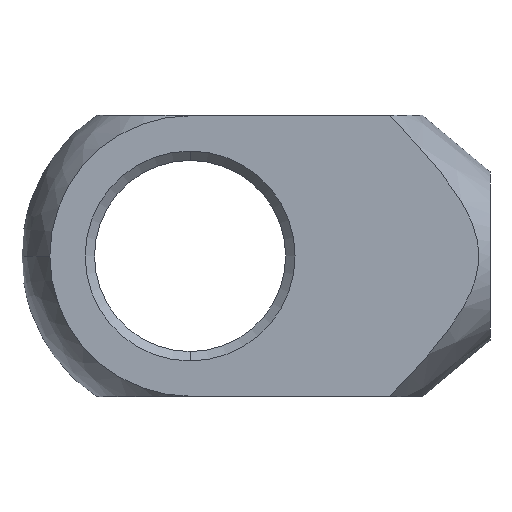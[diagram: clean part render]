
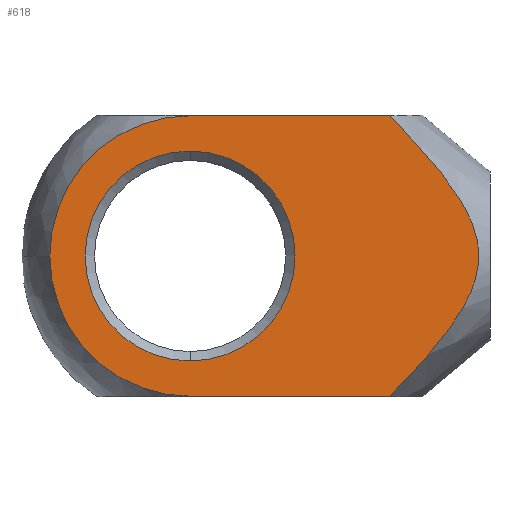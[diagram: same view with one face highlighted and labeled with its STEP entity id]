
A CAD part, left-side view. The second image highlights one B-rep face of the part: STEP entity #618.
In plain terms, the highlighted planar face has unit normal (-1, 0, 0).
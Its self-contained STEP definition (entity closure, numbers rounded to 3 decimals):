
#6 = DIRECTION ( 'NONE',  ( 0., -1., 0. ) ) ;
#45 = CARTESIAN_POINT ( 'NONE',  ( -5., 23.483, 0. ) ) ;
#49 = CARTESIAN_POINT ( 'NONE',  ( -5., 16., -5.6 ) ) ;
#60 = CARTESIAN_POINT ( 'NONE',  ( -5., 4.831, -6.946 ) ) ;
#63 = CARTESIAN_POINT ( 'NONE',  ( -5., 0.596, 0.185 ) ) ;
#64 = CARTESIAN_POINT ( 'NONE',  ( -5., 2.804, -4.71 ) ) ;
#83 = VECTOR ( 'NONE', #746, 1000. ) ;
#128 = CARTESIAN_POINT ( 'NONE',  ( -5., 0.839, 1.486 ) ) ;
#131 = CARTESIAN_POINT ( 'NONE',  ( -5., 1.303, 2.527 ) ) ;
#136 = CARTESIAN_POINT ( 'NONE',  ( -5., 0.987, -1.849 ) ) ;
#146 = PLANE ( 'NONE',  #232 ) ;
#152 = CARTESIAN_POINT ( 'NONE',  ( -5., 0., -7.483 ) ) ;
#156 = VERTEX_POINT ( 'NONE', #45 ) ;
#157 = VERTEX_POINT ( 'NONE', #49 ) ;
#161 = LINE ( 'NONE', #152, #83 ) ;
#197 = CARTESIAN_POINT ( 'NONE',  ( -5., 3.295, -5.283 ) ) ;
#198 = CIRCLE ( 'NONE', #840, 7.483 ) ;
#204 = CARTESIAN_POINT ( 'NONE',  ( -5., 5.363, 7.483 ) ) ;
#207 = CARTESIAN_POINT ( 'NONE',  ( -5., 0.609, 0.376 ) ) ;
#221 = CARTESIAN_POINT ( 'NONE',  ( -5., 0., 7.5 ) ) ;
#232 = AXIS2_PLACEMENT_3D ( 'NONE', #221, #747, #247 ) ;
#234 = ORIENTED_EDGE ( 'NONE', *, *, #465, .F. ) ;
#236 = EDGE_CURVE ( 'NONE', #157, #426, #414, .T. ) ;
#247 = DIRECTION ( 'NONE',  ( 0., 0., -1. ) ) ;
#255 = EDGE_CURVE ( 'NONE', #706, #156, #198, .T. ) ;
#262 = AXIS2_PLACEMENT_3D ( 'NONE', #808, #814, #437 ) ;
#264 = EDGE_CURVE ( 'NONE', #611, #277, #828, .T. ) ;
#269 = CARTESIAN_POINT ( 'NONE',  ( -5., 0.659, 0.753 ) ) ;
#270 = CARTESIAN_POINT ( 'NONE',  ( -5., 1.896, 3.489 ) ) ;
#277 = VERTEX_POINT ( 'NONE', #653 ) ;
#282 = CARTESIAN_POINT ( 'NONE',  ( -5., 1.062, -2.022 ) ) ;
#301 = FACE_OUTER_BOUND ( 'NONE', #874, .T. ) ;
#310 = LINE ( 'NONE', #665, #936 ) ;
#328 = ORIENTED_EDGE ( 'NONE', *, *, #410, .T. ) ;
#352 = EDGE_CURVE ( 'NONE', #277, #706, #161, .T. ) ;
#360 = CARTESIAN_POINT ( 'NONE',  ( -5., 1.306, -2.532 ) ) ;
#368 = CARTESIAN_POINT ( 'NONE',  ( -5., 16., 0. ) ) ;
#390 = CARTESIAN_POINT ( 'NONE',  ( -5., 16., 7.483 ) ) ;
#410 = EDGE_CURVE ( 'NONE', #426, #157, #872, .T. ) ;
#414 = CIRCLE ( 'NONE', #444, 5.6 ) ;
#423 = CARTESIAN_POINT ( 'NONE',  ( -5., 0.696, 0.939 ) ) ;
#426 = VERTEX_POINT ( 'NONE', #435 ) ;
#428 = CARTESIAN_POINT ( 'NONE',  ( -5., 0.65, -0.763 ) ) ;
#430 = CARTESIAN_POINT ( 'NONE',  ( -5., 4.83, 6.946 ) ) ;
#434 = CARTESIAN_POINT ( 'NONE',  ( -5., 2.798, 4.702 ) ) ;
#435 = CARTESIAN_POINT ( 'NONE',  ( -5., 16., 5.6 ) ) ;
#437 = DIRECTION ( 'NONE',  ( 0., 0., -1. ) ) ;
#438 = CARTESIAN_POINT ( 'NONE',  ( -5., 2.12, -3.805 ) ) ;
#444 = AXIS2_PLACEMENT_3D ( 'NONE', #480, #702, #718 ) ;
#465 = EDGE_CURVE ( 'NONE', #732, #611, #310, .T. ) ;
#469 = CARTESIAN_POINT ( 'NONE',  ( -5., 16., -7.483 ) ) ;
#478 = ORIENTED_EDGE ( 'NONE', *, *, #948, .F. ) ;
#480 = CARTESIAN_POINT ( 'NONE',  ( -5., 16., 0. ) ) ;
#490 = CARTESIAN_POINT ( 'NONE',  ( -5., 2.114, 3.797 ) ) ;
#498 = CARTESIAN_POINT ( 'NONE',  ( -5., 4.306, 6.4 ) ) ;
#504 = CARTESIAN_POINT ( 'NONE',  ( -5., 1.9, -3.495 ) ) ;
#536 = ORIENTED_EDGE ( 'NONE', *, *, #255, .F. ) ;
#578 = CARTESIAN_POINT ( 'NONE',  ( -5., 0.597, -0.389 ) ) ;
#607 = AXIS2_PLACEMENT_3D ( 'NONE', #368, #877, #737 ) ;
#611 = VERTEX_POINT ( 'NONE', #758 ) ;
#614 = CIRCLE ( 'NONE', #262, 7.483 ) ;
#618 = ADVANCED_FACE ( 'NONE', ( #805, #301 ), #146, .F. ) ;
#653 = CARTESIAN_POINT ( 'NONE',  ( -5., 5.363, -7.483 ) ) ;
#656 = ORIENTED_EDGE ( 'NONE', *, *, #264, .F. ) ;
#657 = CARTESIAN_POINT ( 'NONE',  ( -5., 16., 0. ) ) ;
#665 = CARTESIAN_POINT ( 'NONE',  ( -5., 0., 7.483 ) ) ;
#691 = ORIENTED_EDGE ( 'NONE', *, *, #352, .F. ) ;
#702 = DIRECTION ( 'NONE',  ( 1., 0., 0. ) ) ;
#706 = VERTEX_POINT ( 'NONE', #469 ) ;
#718 = DIRECTION ( 'NONE',  ( 0., 0., -1. ) ) ;
#721 = CARTESIAN_POINT ( 'NONE',  ( -5., 1.491, 2.854 ) ) ;
#724 = CARTESIAN_POINT ( 'NONE',  ( -5., 5.363, -7.483 ) ) ;
#732 = VERTEX_POINT ( 'NONE', #390 ) ;
#733 = CARTESIAN_POINT ( 'NONE',  ( -5., 0.794, -1.311 ) ) ;
#737 = DIRECTION ( 'NONE',  ( 0., 0., -1. ) ) ;
#746 = DIRECTION ( 'NONE',  ( 0., 1., 0. ) ) ;
#747 = DIRECTION ( 'NONE',  ( 1., 0., 0. ) ) ;
#758 = CARTESIAN_POINT ( 'NONE',  ( -5., 5.363, 7.483 ) ) ;
#794 = CARTESIAN_POINT ( 'NONE',  ( -5., 1.494, -2.859 ) ) ;
#805 = FACE_BOUND ( 'NONE', #864, .T. ) ;
#806 = CARTESIAN_POINT ( 'NONE',  ( -5., 0.853, -1.493 ) ) ;
#808 = CARTESIAN_POINT ( 'NONE',  ( -5., 16., 0. ) ) ;
#809 = CARTESIAN_POINT ( 'NONE',  ( -5., 4.308, -6.402 ) ) ;
#814 = DIRECTION ( 'NONE',  ( 1., 0., 0. ) ) ;
#828 = B_SPLINE_CURVE_WITH_KNOTS ( 'NONE', 3,
 ( #204, #430, #498, #875, #434, #490, #270, #721, #131, #866, #128, #423, #269, #207, #63, #578, #428, #733, #806, #136, #282, #360, #794, #504, #438, #64, #197, #809, #60, #724 ),
 .UNSPECIFIED., .F., .F.,
 ( 4, 2, 2, 2, 2, 2, 2, 2, 2, 2, 2, 2, 2, 2, 4 ),
 ( 0., 0.002, 0.005, 0.006, 0.007, 0.008, 0.009, 0.009, 0.01, 0.011, 0.011, 0.012, 0.014, 0.016, 0.018 ),
 .UNSPECIFIED. ) ;
#840 = AXIS2_PLACEMENT_3D ( 'NONE', #657, #944, #871 ) ;
#864 = EDGE_LOOP ( 'NONE', ( #328, #920 ) ) ;
#866 = CARTESIAN_POINT ( 'NONE',  ( -5., 0.976, 1.841 ) ) ;
#871 = DIRECTION ( 'NONE',  ( 0., 0., -1. ) ) ;
#872 = CIRCLE ( 'NONE', #607, 5.6 ) ;
#874 = EDGE_LOOP ( 'NONE', ( #656, #234, #478, #536, #691 ) ) ;
#875 = CARTESIAN_POINT ( 'NONE',  ( -5., 3.291, 5.279 ) ) ;
#877 = DIRECTION ( 'NONE',  ( 1., 0., 0. ) ) ;
#920 = ORIENTED_EDGE ( 'NONE', *, *, #236, .T. ) ;
#936 = VECTOR ( 'NONE', #6, 1000. ) ;
#944 = DIRECTION ( 'NONE',  ( 1., 0., 0. ) ) ;
#948 = EDGE_CURVE ( 'NONE', #156, #732, #614, .T. ) ;
